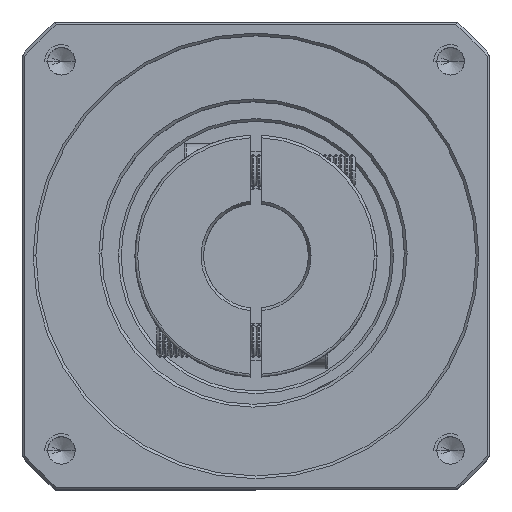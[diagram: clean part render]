
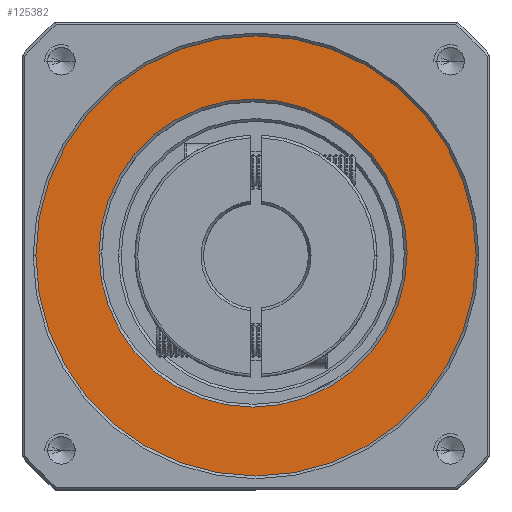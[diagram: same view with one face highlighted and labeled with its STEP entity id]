
A CAD part, top view. The second image highlights one B-rep face of the part: STEP entity #125382.
In plain terms, the highlighted planar face has unit normal (0, 0, 1).
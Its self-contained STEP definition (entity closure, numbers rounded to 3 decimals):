
#1306 = DIRECTION ( 'NONE',  ( 0., 0., 1. ) ) ;
#2282 = CARTESIAN_POINT ( 'NONE',  ( -37.067, 68.253, -61.843 ) ) ;
#6358 = EDGE_CURVE ( 'NONE', #8276, #115990, #65256, .T. ) ;
#8276 = VERTEX_POINT ( 'NONE', #12823 ) ;
#11344 = DIRECTION ( 'NONE',  ( 0., 0., -1. ) ) ;
#11695 = ORIENTED_EDGE ( 'NONE', *, *, #6358, .T. ) ;
#12218 = DIRECTION ( 'NONE',  ( 1., 0., 0. ) ) ;
#12823 = CARTESIAN_POINT ( 'NONE',  ( -77.067, 68.253, -61.843 ) ) ;
#16540 = CIRCLE ( 'NONE', #21152, 28. ) ;
#19824 = EDGE_CURVE ( 'NONE', #115990, #8276, #122861, .T. ) ;
#20718 = PLANE ( 'NONE',  #34449 ) ;
#21152 = AXIS2_PLACEMENT_3D ( 'NONE', #70333, #11344, #80217 ) ;
#21731 = ORIENTED_EDGE ( 'NONE', *, *, #19824, .T. ) ;
#22158 = CARTESIAN_POINT ( 'NONE',  ( -65.609, 68.787, -61.843 ) ) ;
#32362 = EDGE_LOOP ( 'NONE', ( #50393, #71252 ) ) ;
#33577 = CARTESIAN_POINT ( 'NONE',  ( -37.609, 68.787, -61.843 ) ) ;
#34449 = AXIS2_PLACEMENT_3D ( 'NONE', #60327, #1306, #70222 ) ;
#37206 = VERTEX_POINT ( 'NONE', #89630 ) ;
#38761 = EDGE_CURVE ( 'NONE', #104953, #37206, #112595, .T. ) ;
#42038 = FACE_OUTER_BOUND ( 'NONE', #126018, .T. ) ;
#43558 = DIRECTION ( 'NONE',  ( 1., 0., 0. ) ) ;
#45173 = FACE_BOUND ( 'NONE', #32362, .T. ) ;
#50393 = ORIENTED_EDGE ( 'NONE', *, *, #79797, .T. ) ;
#50612 = CARTESIAN_POINT ( 'NONE',  ( -37.067, 68.253, -61.843 ) ) ;
#60327 = CARTESIAN_POINT ( 'NONE',  ( -37.067, 68.253, -61.843 ) ) ;
#60453 = DIRECTION ( 'NONE',  ( 1., 0., 0. ) ) ;
#65256 = CIRCLE ( 'NONE', #98809, 40. ) ;
#70222 = DIRECTION ( 'NONE',  ( 1., 0., 0. ) ) ;
#70333 = CARTESIAN_POINT ( 'NONE',  ( -37.609, 68.787, -61.843 ) ) ;
#71180 = DIRECTION ( 'NONE',  ( 0., 0., 1. ) ) ;
#71252 = ORIENTED_EDGE ( 'NONE', *, *, #38761, .T. ) ;
#79797 = EDGE_CURVE ( 'NONE', #37206, #104953, #16540, .T. ) ;
#80217 = DIRECTION ( 'NONE',  ( 1., 0., 0. ) ) ;
#81271 = AXIS2_PLACEMENT_3D ( 'NONE', #33577, #102405, #43558 ) ;
#89630 = CARTESIAN_POINT ( 'NONE',  ( -9.609, 68.787, -61.843 ) ) ;
#92675 = CARTESIAN_POINT ( 'NONE',  ( 2.933, 68.253, -61.843 ) ) ;
#95406 = AXIS2_PLACEMENT_3D ( 'NONE', #50612, #119220, #60453 ) ;
#98809 = AXIS2_PLACEMENT_3D ( 'NONE', #2282, #71180, #12218 ) ;
#102405 = DIRECTION ( 'NONE',  ( 0., 0., -1. ) ) ;
#104953 = VERTEX_POINT ( 'NONE', #22158 ) ;
#112595 = CIRCLE ( 'NONE', #81271, 28. ) ;
#115990 = VERTEX_POINT ( 'NONE', #92675 ) ;
#119220 = DIRECTION ( 'NONE',  ( 0., 0., 1. ) ) ;
#122861 = CIRCLE ( 'NONE', #95406, 40. ) ;
#125382 = ADVANCED_FACE ( 'NONE', ( #42038, #45173 ), #20718, .T. ) ;
#126018 = EDGE_LOOP ( 'NONE', ( #21731, #11695 ) ) ;
